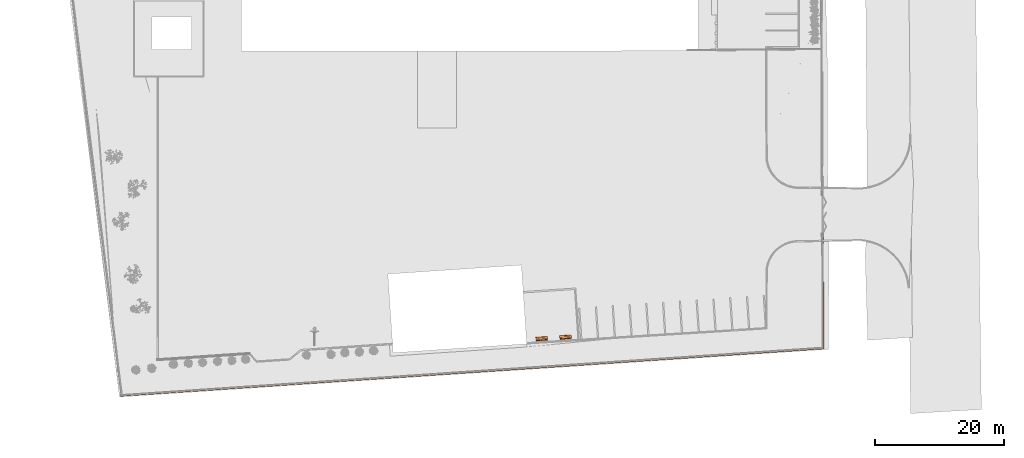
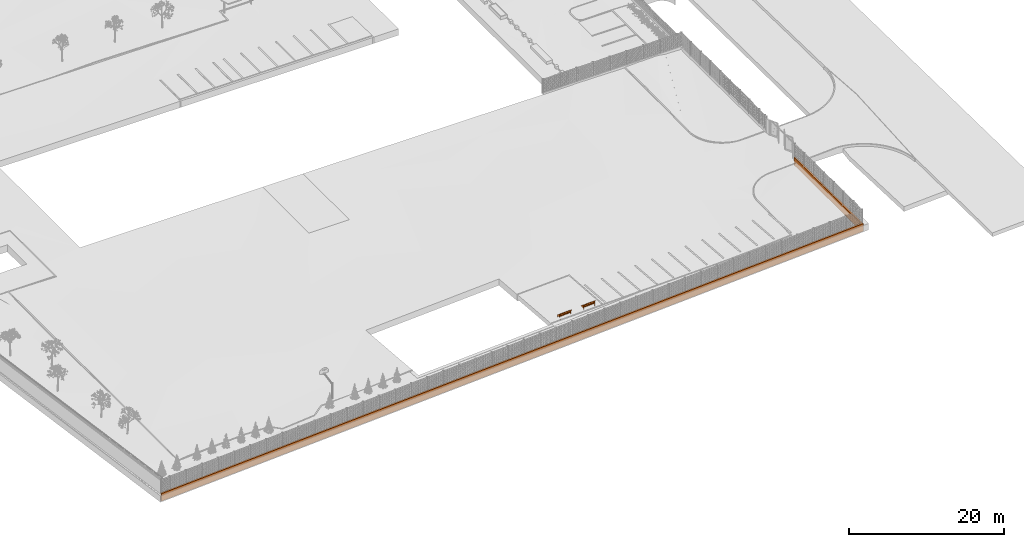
# One storey, part 10 of 1809: 3 proxies.
"""IFC2X3 building model written with IfcOpenShell, lengths in millimetres."""

from ifc_helpers import new_model, entity, si_unit, converted_unit, derived_unit, money_unit, direction, frame, origin_with_axes, place, context, subcontext, project, spatial, polyline, outline, extrude, faceted_brep, source, transform, mapped, material, type_object, element, save


model = new_model("IFC2X3")

# Units and contexts
model_context = context("Model", 3, precision=0.01, world=origin_with_axes(), true_north=direction((0.0, 1.0)))
body_context = subcontext(model_context, "Body", "Model", "MODEL_VIEW")
ifc_project = project(units=[si_unit("LENGTHUNIT", "METRE", prefix="MILLI"), si_unit("AREAUNIT", "SQUARE_METRE"), si_unit("VOLUMEUNIT", "CUBIC_METRE"), converted_unit("PLANEANGLEUNIT", "DEGREE", entity("IfcPlaneAngleMeasure", 0.0174532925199), si_unit("PLANEANGLEUNIT", "RADIAN"), dimensions=[0, 0, 0, 0, 0, 0, 0]), si_unit("SOLIDANGLEUNIT", "STERADIAN"), money_unit("EUR"), converted_unit("TIMEUNIT", "Year", entity("IfcTimeMeasure", 31556926.0), si_unit("TIMEUNIT", "SECOND"), dimensions=[0, 0, 1, 0, 0, 0, 0]), si_unit("MASSUNIT", "GRAM", prefix="KILO"), si_unit("THERMODYNAMICTEMPERATUREUNIT", "DEGREE_CELSIUS"), si_unit("LUMINOUSINTENSITYUNIT", "LUMEN"), si_unit("ENERGYUNIT", "JOULE", prefix="MEGA"), derived_unit("THERMALCONDUCTANCEUNIT", [(si_unit("POWERUNIT", "WATT"), 1), (si_unit("LENGTHUNIT", "METRE"), -1), (si_unit("THERMODYNAMICTEMPERATUREUNIT", "KELVIN"), -1)]), derived_unit("SPECIFICHEATCAPACITYUNIT", [(si_unit("ENERGYUNIT", "JOULE"), 1), (si_unit("MASSUNIT", "GRAM", prefix="KILO"), -1), (si_unit("THERMODYNAMICTEMPERATUREUNIT", "KELVIN"), -1)]), derived_unit("MASSDENSITYUNIT", [(si_unit("MASSUNIT", "GRAM", prefix="KILO"), 1), (si_unit("VOLUMEUNIT", "CUBIC_METRE"), -1)])], contexts=[model_context])

# Site, building, storey
site_placement = place(None, origin_with_axes())
site = spatial("IfcSite", under=ifc_project, at=site_placement, Name="Politse- ja Piirivalveameti ning Päästeameti ühishoone", CompositionType="ELEMENT")
building_placement = place(site_placement, origin_with_axes())
building = spatial("IfcBuilding", under=site, at=building_placement, Name="Politse- ja Piirivalveameti ning Päästeameti ühishoone", CompositionType="ELEMENT")
storey_placement = place(building_placement, origin_with_axes())
storey = spatial("IfcBuildingStorey", under=building, at=storey_placement, Name="Esimene korrus", CompositionType="ELEMENT", Elevation=0.0)

# Proxies
ifc_material = material(Name="Betoon")
building_element_proxy_type_1 = type_object("IfcBuildingElementProxyType", Name="Betoon 1200", PredefinedType="NOTDEFINED")
proxy_placement = place(storey_placement, frame((-19207.1937365, -53689.4847212, 203.661247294), z_axis=(0.0, 0.0, 1.0), x_axis=(1.0, 0.0, 0.0)))
element("IfcBuildingElementProxy", 1, at=proxy_placement, inside=storey, type_object=building_element_proxy_type_1, material=ifc_material, Name="PIIRDEAED", context=body_context, shape_type="SweptSolid", body=[
    extrude(outline(polyline([(0.0, 0.0), (18.5668983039, -248.887537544), (108757.30237, 7077.76016242), (108697.85023, 24478.4200321), (108439.599389, 24468.8070417), (108506.39329, 7311.91831374), (0.0, 0.0)])), frame((0.0, 0.0, -1200.0), z_axis=(0.0, 0.0, 1.0), x_axis=(1.0, 0.0, 0.0)), (0.0, 0.0, 1.0), 1200.0),
])
building_element_proxy_type_2 = type_object("IfcBuildingElementProxyType", Name="Outdoor Bench 23", PredefinedType="NOTDEFINED")
shared_shape = source(origin_with_axes(), body_context, "Body", "Brep", [
    faceted_brep([(70.0002, -80.03515, 405.0), (70.0002, -80.03515, 376.41186), (39.9996, -80.03515, 376.41186), (39.9996, -80.03515, 405.0), (70.0002, -114.86995, 405.0), (70.0002, -629.382, 405.0), (70.0002, -629.382, 0.0), (70.0002, -595.08085, 0.0), (70.0002, -595.08085, 376.41186), (70.0002, -114.86995, 376.41186), (70.0002, -34.8348, 0.0), (70.0002, 0.0, 0.0), (39.9996, 0.0, 0.0), (39.9996, -34.8348, 0.0), (39.9996, -114.86995, 376.41186), (39.9996, -595.08085, 376.41186), (39.9996, -595.08085, 0.0), (39.9996, -629.382, 0.0), (39.9996, -629.382, 405.0), (39.9996, -114.86995, 405.0)], [[[0, 1, 2, 3]], [[0, 4, 5, 6, 7, 8, 9, 10, 11, 1]], [[1, 11, 12, 2]], [[3, 2, 12, 13, 14, 15, 16, 17, 18, 19]], [[4, 0, 3, 19]], [[5, 4, 19, 18]], [[6, 5, 18, 17]], [[7, 6, 17, 16]], [[8, 7, 16, 15]], [[9, 8, 15, 14]], [[10, 9, 14, 13]], [[11, 10, 13, 12]]]),
    faceted_brep([(1760.0004, -80.03515, 405.0), (1760.0004, -80.03515, 376.41186), (1729.9998, -80.03515, 376.41186), (1729.9998, -80.03515, 405.0), (1760.0004, -114.86995, 405.0), (1760.0004, -629.382, 405.0), (1760.0004, -629.382, 0.0), (1760.0004, -595.08085, 0.0), (1760.0004, -595.08085, 376.41186), (1760.0004, -114.86995, 376.41186), (1760.0004, -34.8348, 0.0), (1760.0004, 0.0, 0.0), (1729.9998, 0.0, 0.0), (1729.9998, -34.8348, 0.0), (1729.9998, -114.86995, 376.41186), (1729.9998, -595.08085, 376.41186), (1729.9998, -595.08085, 0.0), (1729.9998, -629.382, 0.0), (1729.9998, -629.382, 405.0), (1729.9998, -114.86995, 405.0)], [[[0, 1, 2, 3]], [[0, 4, 5, 6, 7, 8, 9, 10, 11, 1]], [[1, 11, 12, 2]], [[3, 2, 12, 13, 14, 15, 16, 17, 18, 19]], [[4, 0, 3, 19]], [[5, 4, 19, 18]], [[6, 5, 18, 17]], [[7, 6, 17, 16]], [[8, 7, 16, 15]], [[9, 8, 15, 14]], [[10, 9, 14, 13]], [[11, 10, 13, 12]]]),
    faceted_brep([(70.2, -80.03515, 405.0), (70.2, -114.86995, 405.0), (40.1994, -114.86995, 405.0), (40.1994, -80.03515, 405.0), (70.2, 9.15135, 889.394625), (70.2, -24.6233, 895.154445), (40.1994, -24.6233, 895.154445), (40.1994, 9.15135, 889.394625)], [[[0, 1, 2, 3]], [[0, 4, 5, 1]], [[1, 5, 6, 2]], [[3, 2, 6, 7]], [[4, 0, 3, 7]], [[5, 4, 7, 6]]]),
    faceted_brep([(1760.2002, -80.03515, 405.0), (1760.2002, -114.86995, 405.0), (1730.1996, -114.86995, 405.0), (1730.1996, -80.03515, 405.0), (1760.2002, 9.15135, 889.394625), (1760.2002, -24.6233, 895.154445), (1730.1996, -24.6233, 895.154445), (1730.1996, 9.15135, 889.394625)], [[[0, 1, 2, 3]], [[0, 4, 5, 1]], [[1, 5, 6, 2]], [[3, 2, 6, 7]], [[4, 0, 3, 7]], [[5, 4, 7, 6]]]),
    faceted_brep([(1800.0, -24.6233, 895.154445), (1800.0, -52.55575, 743.449815), (0.0, -52.55575, 743.449815), (0.0, -24.6233, 895.154445), (1800.0, -52.7696, 900.0), (1800.0, -80.70075, 748.251315), (0.0, -80.70075, 748.251315), (0.0, -52.7696, 900.0)], [[[0, 1, 2, 3]], [[0, 4, 5, 1]], [[1, 5, 6, 2]], [[3, 2, 6, 7]], [[4, 0, 3, 7]], [[5, 4, 7, 6]]]),
    faceted_brep([(1800.0, -56.5461, 721.77822), (1800.0, -84.4766, 570.07359), (0.0, -84.4766, 570.07359), (0.0, -56.5461, 721.77822), (1800.0, -84.6911, 726.57972), (1800.0, -112.6229, 574.873605), (0.0, -112.6229, 574.873605), (0.0, -84.6911, 726.57972)], [[[0, 1, 2, 3]], [[0, 4, 5, 1]], [[1, 5, 6, 2]], [[3, 2, 6, 7]], [[4, 0, 3, 7]], [[5, 4, 7, 6]]]),
    faceted_brep([(1800.0, -650.0, 405.0), (0.0, -650.0, 405.0), (0.0, -489.9297, 405.0), (1800.0, -489.9297, 405.0), (1800.0, -650.0, 430.0), (0.0, -650.0, 430.0), (0.0, -489.9297, 430.0), (1800.0, -489.9297, 430.0)], [[[0, 1, 2, 3]], [[1, 0, 4, 5]], [[2, 1, 5, 6]], [[3, 2, 6, 7]], [[0, 3, 7, 4]], [[5, 4, 7, 6]]]),
    faceted_brep([(1800.0, -467.0627, 405.0), (0.0, -467.0627, 405.0), (0.0, -306.9924, 405.0), (1800.0, -306.9924, 405.0), (1800.0, -467.0627, 430.0), (0.0, -467.0627, 430.0), (0.0, -306.9924, 430.0), (1800.0, -306.9924, 430.0)], [[[0, 1, 2, 3]], [[1, 0, 4, 5]], [[2, 1, 5, 6]], [[3, 2, 6, 7]], [[0, 3, 7, 4]], [[5, 4, 7, 6]]]),
    faceted_brep([(1800.0, -284.1254, 405.0), (0.0, -284.1254, 405.0), (0.0, -124.0551, 405.0), (1800.0, -124.0551, 405.0), (1800.0, -284.1254, 430.0), (0.0, -284.1254, 430.0), (0.0, -124.0551, 430.0), (1800.0, -124.0551, 430.0)], [[[0, 1, 2, 3]], [[1, 0, 4, 5]], [[2, 1, 5, 6]], [[3, 2, 6, 7]], [[0, 3, 7, 4]], [[5, 4, 7, 6]]]),
])
for number, where, z_axis, x_axis in (
    (2, (46820.0846678, -45328.995826, -100.0), (0.0, 0.0, 1.0), (-0.99783884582, -0.0657087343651, 0.0)),
    (3, (50517.1935888, -45084.5948632, -100.0), (0.0, 0.0, 1.0), (-0.99783884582, -0.0657087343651, 0.0)),
):
    element("IfcBuildingElementProxy", number, at=place(storey_placement, frame(where, z_axis=z_axis, x_axis=x_axis)), inside=storey, type_object=building_element_proxy_type_2, Name="ISTEPINK", context=body_context, shape_type="MappedRepresentation", body=[
        mapped(shared_shape, transform((0.0, 0.0, 0.0))),
    ])

save(model, "model.ifc")
